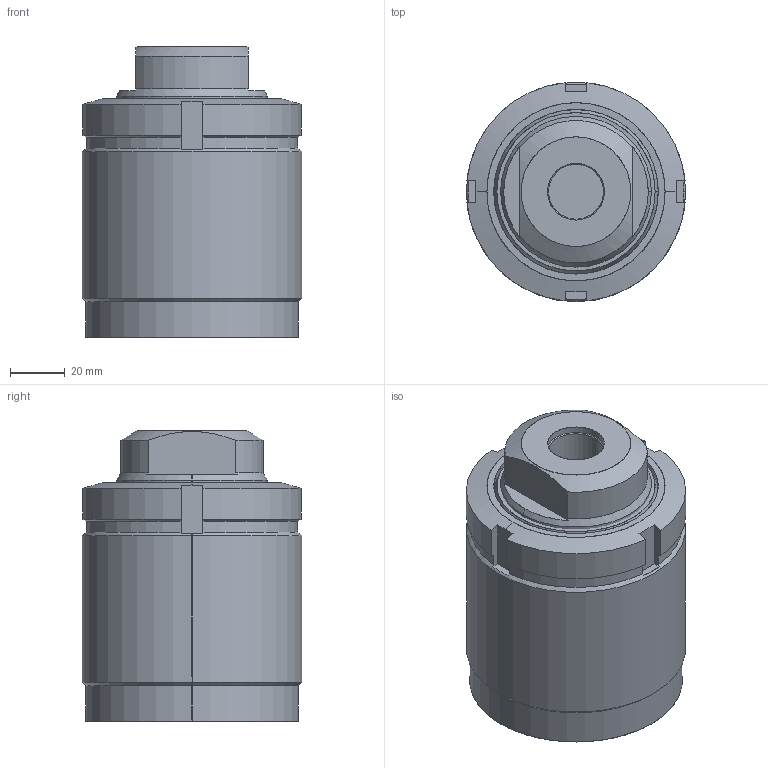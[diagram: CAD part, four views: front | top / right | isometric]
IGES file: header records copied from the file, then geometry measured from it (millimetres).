
Start section: SolidWorks IGES file using analytic representation for surfaces
Global section: file name: D:\abhilash\nijil\cylinder\Clasys1\dp converted\09\pt\0902\0102-0902.IGS; native system: SolidWorks 2010; preprocessor: SolidWorks 2010; author: nidheesh; date: 130730.113046; units: millimetre
Bounding box: 80 x 80 x 106 mm (x, y, z)
Surface area: 44449.5 mm2 (no closed solid volume)
Topology: 0 solids, 0 shells, 85 faces, 1406 edges, 1406 vertices
Faces by surface type: revolution 50, bspline 35
